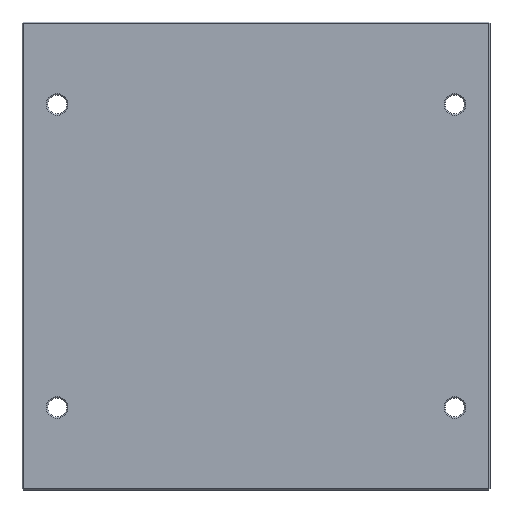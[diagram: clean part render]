
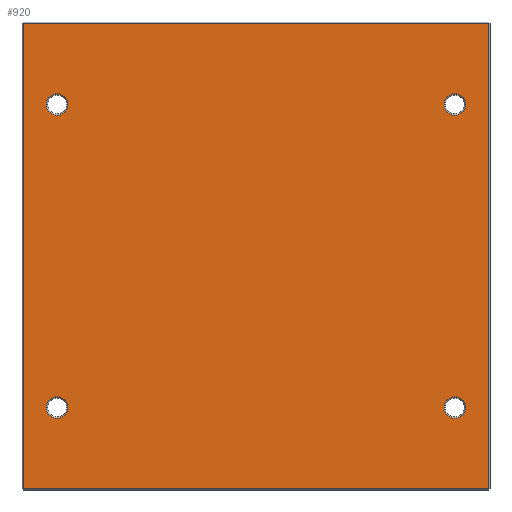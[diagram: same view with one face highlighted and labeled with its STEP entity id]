
A CAD part, front view. The second image highlights one B-rep face of the part: STEP entity #920.
In plain terms, the highlighted planar face has unit normal (0, -1, 0).
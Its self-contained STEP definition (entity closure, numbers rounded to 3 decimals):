
#1 = CARTESIAN_POINT ( 'NONE',  ( -147., 0., -104. ) ) ;
#13 = VERTEX_POINT ( 'NONE', #730 ) ;
#16 = FACE_BOUND ( 'NONE', #554, .T. ) ;
#26 = DIRECTION ( 'NONE',  ( 0., 0., 1. ) ) ;
#35 = AXIS2_PLACEMENT_3D ( 'NONE', #513, #39, #26 ) ;
#39 = DIRECTION ( 'NONE',  ( 0., 1., 0. ) ) ;
#73 = EDGE_CURVE ( 'NONE', #881, #477, #161, .T. ) ;
#74 = CARTESIAN_POINT ( 'NONE',  ( 147., 0., 120. ) ) ;
#83 = DIRECTION ( 'NONE',  ( 0., 1., 0. ) ) ;
#99 = CARTESIAN_POINT ( 'NONE',  ( -147., 0., 112. ) ) ;
#141 = DIRECTION ( 'NONE',  ( 0., 0., 1. ) ) ;
#161 = CIRCLE ( 'NONE', #415, 8. ) ;
#168 = DIRECTION ( 'NONE',  ( 0., 1., 0. ) ) ;
#177 = VERTEX_POINT ( 'NONE', #1516 ) ;
#178 = CARTESIAN_POINT ( 'NONE',  ( 147., 0., 112. ) ) ;
#188 = LINE ( 'NONE', #505, #1244 ) ;
#198 = DIRECTION ( 'NONE',  ( 0., 0., 1. ) ) ;
#254 = DIRECTION ( 'NONE',  ( 0., 0., 1. ) ) ;
#272 = EDGE_CURVE ( 'NONE', #707, #832, #1114, .T. ) ;
#288 = AXIS2_PLACEMENT_3D ( 'NONE', #754, #370, #1529 ) ;
#297 = CIRCLE ( 'NONE', #1449, 8. ) ;
#305 = AXIS2_PLACEMENT_3D ( 'NONE', #1512, #1652, #1495 ) ;
#320 = FACE_BOUND ( 'NONE', #662, .T. ) ;
#340 = DIRECTION ( 'NONE',  ( 0., 0., 1. ) ) ;
#370 = DIRECTION ( 'NONE',  ( 0., 1., 0. ) ) ;
#375 = CARTESIAN_POINT ( 'NONE',  ( 172., 0., 0. ) ) ;
#415 = AXIS2_PLACEMENT_3D ( 'NONE', #178, #168, #141 ) ;
#440 = CIRCLE ( 'NONE', #562, 8. ) ;
#449 = DIRECTION ( 'NONE',  ( 0., 0., 1. ) ) ;
#455 = VERTEX_POINT ( 'NONE', #941 ) ;
#477 = VERTEX_POINT ( 'NONE', #1053 ) ;
#505 = CARTESIAN_POINT ( 'NONE',  ( 0., 0., -172. ) ) ;
#513 = CARTESIAN_POINT ( 'NONE',  ( 147., 0., 112. ) ) ;
#554 = EDGE_LOOP ( 'NONE', ( #1119, #1161 ) ) ;
#562 = AXIS2_PLACEMENT_3D ( 'NONE', #915, #1316, #340 ) ;
#601 = CARTESIAN_POINT ( 'NONE',  ( -147., 0., -112. ) ) ;
#621 = ORIENTED_EDGE ( 'NONE', *, *, #907, .T. ) ;
#640 = DIRECTION ( 'NONE',  ( 0., 0., 1. ) ) ;
#651 = LINE ( 'NONE', #1230, #681 ) ;
#659 = PLANE ( 'NONE',  #1322 ) ;
#662 = EDGE_LOOP ( 'NONE', ( #1251, #1606 ) ) ;
#667 = FACE_BOUND ( 'NONE', #1264, .T. ) ;
#677 = CIRCLE ( 'NONE', #35, 8. ) ;
#681 = VECTOR ( 'NONE', #1521, 1000. ) ;
#703 = CARTESIAN_POINT ( 'NONE',  ( 172., 0., 172. ) ) ;
#707 = VERTEX_POINT ( 'NONE', #703 ) ;
#713 = EDGE_CURVE ( 'NONE', #477, #881, #677, .T. ) ;
#730 = CARTESIAN_POINT ( 'NONE',  ( 147., 0., -104. ) ) ;
#751 = FACE_OUTER_BOUND ( 'NONE', #1286, .T. ) ;
#754 = CARTESIAN_POINT ( 'NONE',  ( 147., 0., -112. ) ) ;
#781 = CARTESIAN_POINT ( 'NONE',  ( -172., 0., -172. ) ) ;
#796 = AXIS2_PLACEMENT_3D ( 'NONE', #99, #83, #254 ) ;
#832 = VERTEX_POINT ( 'NONE', #1197 ) ;
#837 = VECTOR ( 'NONE', #640, 1000. ) ;
#839 = LINE ( 'NONE', #375, #837 ) ;
#849 = DIRECTION ( 'NONE',  ( 0., 0., 1. ) ) ;
#875 = DIRECTION ( 'NONE',  ( 1., 0., 0. ) ) ;
#881 = VERTEX_POINT ( 'NONE', #74 ) ;
#907 = EDGE_CURVE ( 'NONE', #177, #1436, #297, .T. ) ;
#915 = CARTESIAN_POINT ( 'NONE',  ( -147., 0., -112. ) ) ;
#920 = ADVANCED_FACE ( 'NONE', ( #1333, #16, #320, #667, #751 ), #659, .F. ) ;
#941 = CARTESIAN_POINT ( 'NONE',  ( 147., 0., -120. ) ) ;
#948 = AXIS2_PLACEMENT_3D ( 'NONE', #1624, #1069, #449 ) ;
#950 = CIRCLE ( 'NONE', #288, 8. ) ;
#961 = ORIENTED_EDGE ( 'NONE', *, *, #1256, .T. ) ;
#982 = DIRECTION ( 'NONE',  ( 0., 1., 0. ) ) ;
#985 = ORIENTED_EDGE ( 'NONE', *, *, #272, .T. ) ;
#988 = VERTEX_POINT ( 'NONE', #1086 ) ;
#993 = EDGE_LOOP ( 'NONE', ( #1046, #1075 ) ) ;
#1043 = VECTOR ( 'NONE', #1473, 1000. ) ;
#1046 = ORIENTED_EDGE ( 'NONE', *, *, #1051, .T. ) ;
#1047 = ORIENTED_EDGE ( 'NONE', *, *, #1205, .T. ) ;
#1051 = EDGE_CURVE ( 'NONE', #455, #13, #1276, .T. ) ;
#1052 = VERTEX_POINT ( 'NONE', #781 ) ;
#1053 = CARTESIAN_POINT ( 'NONE',  ( 147., 0., 104. ) ) ;
#1069 = DIRECTION ( 'NONE',  ( 0., 1., 0. ) ) ;
#1070 = EDGE_CURVE ( 'NONE', #988, #1152, #1093, .T. ) ;
#1075 = ORIENTED_EDGE ( 'NONE', *, *, #1571, .T. ) ;
#1086 = CARTESIAN_POINT ( 'NONE',  ( -147., 0., 120. ) ) ;
#1093 = CIRCLE ( 'NONE', #796, 8. ) ;
#1114 = LINE ( 'NONE', #1444, #1043 ) ;
#1119 = ORIENTED_EDGE ( 'NONE', *, *, #713, .T. ) ;
#1149 = EDGE_CURVE ( 'NONE', #832, #1052, #651, .T. ) ;
#1152 = VERTEX_POINT ( 'NONE', #1214 ) ;
#1161 = ORIENTED_EDGE ( 'NONE', *, *, #73, .T. ) ;
#1197 = CARTESIAN_POINT ( 'NONE',  ( -172., 0., 172. ) ) ;
#1205 = EDGE_CURVE ( 'NONE', #1436, #177, #440, .T. ) ;
#1214 = CARTESIAN_POINT ( 'NONE',  ( -147., 0., 104. ) ) ;
#1230 = CARTESIAN_POINT ( 'NONE',  ( -172., 0., 0. ) ) ;
#1244 = VECTOR ( 'NONE', #875, 1000. ) ;
#1249 = EDGE_CURVE ( 'NONE', #1656, #707, #839, .T. ) ;
#1251 = ORIENTED_EDGE ( 'NONE', *, *, #1497, .T. ) ;
#1256 = EDGE_CURVE ( 'NONE', #1052, #1656, #188, .T. ) ;
#1264 = EDGE_LOOP ( 'NONE', ( #621, #1047 ) ) ;
#1276 = CIRCLE ( 'NONE', #948, 8. ) ;
#1286 = EDGE_LOOP ( 'NONE', ( #1298, #985, #1361, #961 ) ) ;
#1298 = ORIENTED_EDGE ( 'NONE', *, *, #1249, .T. ) ;
#1316 = DIRECTION ( 'NONE',  ( 0., 1., 0. ) ) ;
#1322 = AXIS2_PLACEMENT_3D ( 'NONE', #1570, #1421, #198 ) ;
#1333 = FACE_BOUND ( 'NONE', #993, .T. ) ;
#1361 = ORIENTED_EDGE ( 'NONE', *, *, #1149, .T. ) ;
#1421 = DIRECTION ( 'NONE',  ( 0., 1., 0. ) ) ;
#1436 = VERTEX_POINT ( 'NONE', #1 ) ;
#1444 = CARTESIAN_POINT ( 'NONE',  ( 0., 0., 172. ) ) ;
#1449 = AXIS2_PLACEMENT_3D ( 'NONE', #601, #982, #849 ) ;
#1473 = DIRECTION ( 'NONE',  ( -1., 0., 0. ) ) ;
#1495 = DIRECTION ( 'NONE',  ( 0., 0., 1. ) ) ;
#1497 = EDGE_CURVE ( 'NONE', #1152, #988, #1523, .T. ) ;
#1512 = CARTESIAN_POINT ( 'NONE',  ( -147., 0., 112. ) ) ;
#1516 = CARTESIAN_POINT ( 'NONE',  ( -147., 0., -120. ) ) ;
#1521 = DIRECTION ( 'NONE',  ( 0., 0., -1. ) ) ;
#1523 = CIRCLE ( 'NONE', #305, 8. ) ;
#1529 = DIRECTION ( 'NONE',  ( 0., 0., 1. ) ) ;
#1570 = CARTESIAN_POINT ( 'NONE',  ( 0., 0., 0. ) ) ;
#1571 = EDGE_CURVE ( 'NONE', #13, #455, #950, .T. ) ;
#1590 = CARTESIAN_POINT ( 'NONE',  ( 172., 0., -172. ) ) ;
#1606 = ORIENTED_EDGE ( 'NONE', *, *, #1070, .T. ) ;
#1624 = CARTESIAN_POINT ( 'NONE',  ( 147., 0., -112. ) ) ;
#1652 = DIRECTION ( 'NONE',  ( 0., 1., 0. ) ) ;
#1656 = VERTEX_POINT ( 'NONE', #1590 ) ;
